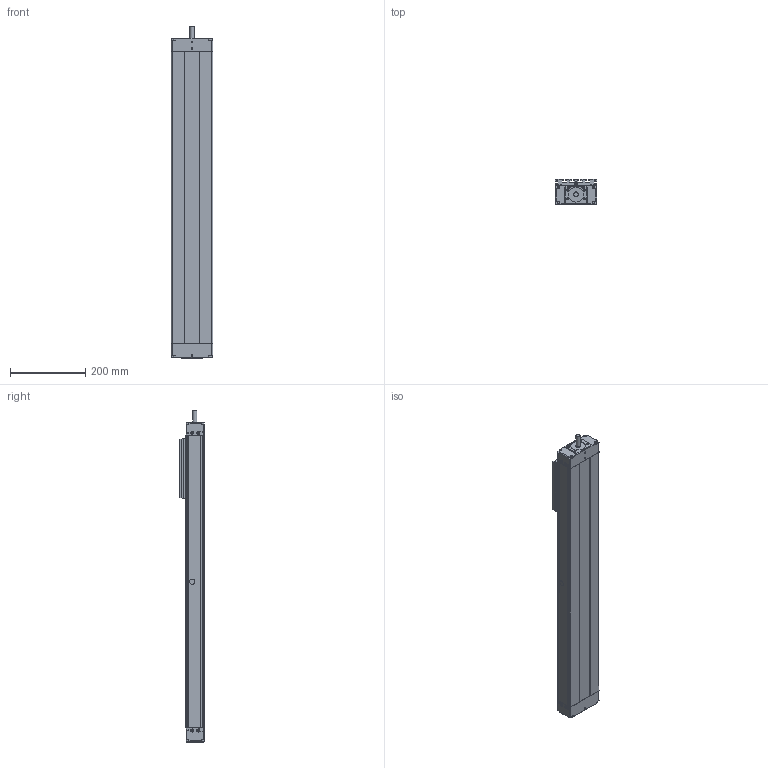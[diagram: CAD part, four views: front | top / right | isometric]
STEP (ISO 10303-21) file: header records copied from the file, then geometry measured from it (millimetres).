
FILE_DESCRIPTION(/* description */ ('STEP AP214'),/* implementation_level */ '2;1');
FILE_NAME(/* name */ 'CTV 110 1610 ISO7 1 600 L 1 1(0)',/* time_stamp */ '2026-06-01T14:12:09+02:00',/* author */ ('License CC BY-ND 4.0'),/* organization */ ('CADENAS'),/* preprocessor_version */ 'ST-DEVELOPER v20',/* originating_system */ 'PARTsolutions',/* authorisation */ ' ');
FILE_SCHEMA (('AUTOMOTIVE_DESIGN {1 0 10303 214 3 1 1}'));
Length unit declared in the file: millimetre
Products named in the file (7): CTV 110 1610 ISO7 1 600 L 1 1(0); CTV 110 1610 ISO7 1 600 L 1 1(0)_dummy; CTV 110 1_drive_block; CTV 110 600 L 1(0)_profil; CTV 110_end_block; CTV 110 L_carriage; CTV 110 L_connection plate
Assembly tree (6 placements, depth 2):
  CTV 110 1610 ISO7 1 600 L 1 1(0)
    CTV 110 1610 ISO7 1 600 L 1 1(0)_dummy
    CTV 110 1_drive_block
    CTV 110 600 L 1(0)_profil
    CTV 110_end_block
    CTV 110 L_carriage
    CTV 110 L_connection plate
Bounding box: 110 x 66 x 881 mm (x, y, z)
Volume: 4375297.6 mm3; surface area: 547636.2 mm2
Topology: 5 solids, 5 shells, 971 faces, 2427 edges, 1597 vertices
Faces by surface type: plane 730, cylinder 178, torus 36, cone 24, sphere 3
Full cylindrical faces by diameter (mm): 2.459 x1, 3 x4, 3.242 x3, 4.134 x8, 4.917 x4, 5 x10, 6.2 x1, 7 x20, 7.6 x8, 8 x11, 8.5 x9, 9 x8, 10 x14, 11 x1, 12 x1, 14 x2, 14.02 x2, 40 x1
Entity records: 34535 total; most frequent: CARTESIAN_POINT 4785, DIRECTION 4640, ORIENTED_EDGE 4444, EDGE_CURVE 2222, LINE 1756, VECTOR 1756, VERTEX_POINT 1572, AXIS2_PLACEMENT_3D 1442
